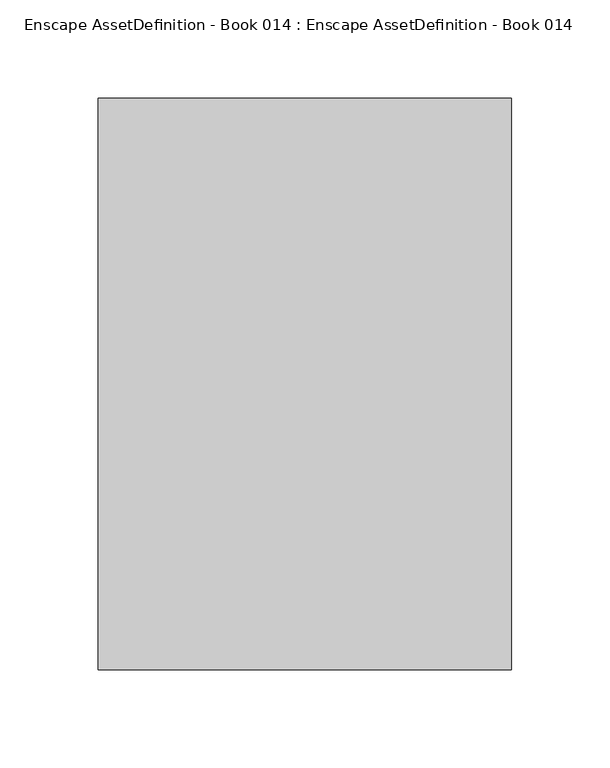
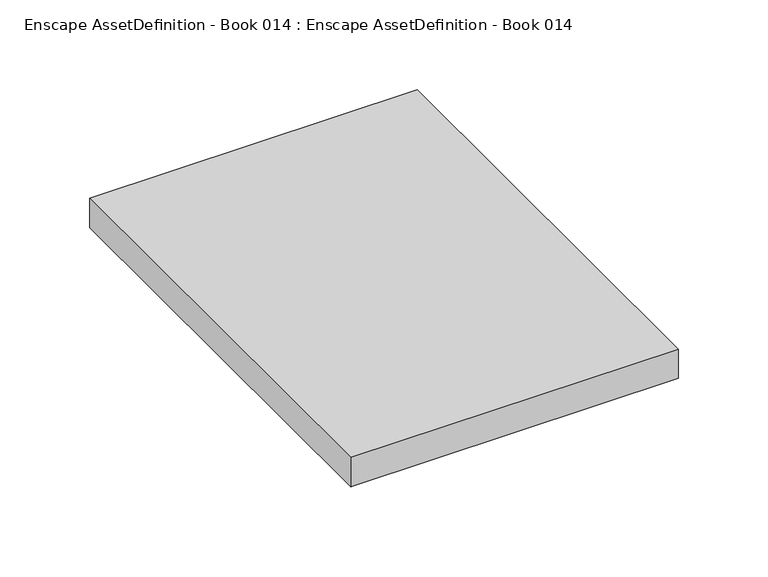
"""IFC4 building model written with IfcOpenShell, lengths in millimetres: geographic element geometry, Enscape AssetDefinition - Book 014 : Enscape AssetDefinition - Book 014."""

import ifcopenshell
import ifcopenshell.guid

model = None  # the IFC model being written
_history = None  # IfcOwnerHistory: only IFC2X3 demands one
_inside = {}  # id of a spatial element -> (the spatial element, [elements in it])
_under = {}  # id of a project, library or spatial element -> (it, [spatial elements below it])
_declared = {}  # id of a project -> (the project, [libraries it declares])
_typed = {}  # id of a type object -> (the type object, [elements of that type])
_made_of = {}  # id of a material, layer set ... -> (it, [elements and type objects made of it])


def new_model(schema):
    """Start an empty IFC model of exactly this schema.

    Asked for "IFC4X3", IfcOpenShell would pick the latest addendum, in which some entities
    have other attributes; the version numbers below select the first issue.
    IFC2X3 requires an IfcOwnerHistory on every rooted entity: one is made here for all.
    """
    global model, _history
    if schema == "IFC4X3":
        model = ifcopenshell.file(schema_version=(4, 3, 0, 0))
    else:
        model = ifcopenshell.file(schema=schema)
    _inside.clear()
    _under.clear()
    _declared.clear()
    _typed.clear()
    _made_of.clear()
    _history = None
    if model.schema == "IFC2X3":
        org = make("IfcOrganization", Name="unknown")
        user = make(
            "IfcPersonAndOrganization",
            ThePerson=make("IfcPerson", FamilyName="unknown"),
            TheOrganization=org,
        )
        app = make(
            "IfcApplication",
            ApplicationDeveloper=org,
            Version="unknown",
            ApplicationFullName="unknown",
            ApplicationIdentifier="unknown",
        )
        _history = make(
            "IfcOwnerHistory",
            OwningUser=user,
            OwningApplication=app,
            ChangeAction="ADDED",
            CreationDate=0,
        )
    return model


def make(cls, **values):
    """One entity of the class cls with the attributes given. An attribute that is None is left unset."""
    return model.create_entity(
        cls, **{name: value for name, value in values.items() if value is not None}
    )


def rooted(cls, **values):
    """An entity with a GlobalId (a new one), such as an element, a storey or a relation."""
    return make(cls, GlobalId=ifcopenshell.guid.new(), OwnerHistory=_history, **values)


def si_unit(unit_type, name, prefix=None):
    """IfcSIUnit, for example si_unit("LENGTHUNIT", "METRE", prefix="MILLI")."""
    return make("IfcSIUnit", UnitType=unit_type, Prefix=prefix, Name=name)


def assignment(units):
    """IfcUnitAssignment: the units of a project."""
    return None if units is None else make("IfcUnitAssignment", Units=units)


def point(xyz):
    """IfcCartesianPoint."""
    return None if xyz is None else make("IfcCartesianPoint", Coordinates=xyz)


def direction(xyz):
    """IfcDirection."""
    return None if xyz is None else make("IfcDirection", DirectionRatios=xyz)


def frame(location, z_axis=None, x_axis=None):
    """IfcAxis2Placement3D, a coordinate frame: its origin and axes. An axis left out is left unset."""
    return make(
        "IfcAxis2Placement3D",
        Location=point(location),
        Axis=direction(z_axis),
        RefDirection=direction(x_axis),
    )


def origin():
    """The frame at (0, 0, 0) with its axes left unset."""
    return frame((0.0, 0.0, 0.0))


def place(relative_to, where):
    """IfcLocalPlacement: puts the frame where relative to a parent placement (None: the world)."""
    return make(
        "IfcLocalPlacement", PlacementRelTo=relative_to, RelativePlacement=where
    )


def context(
    kind, dimensions, precision=None, world=None, true_north=None, identifier=None
):
    """IfcGeometricRepresentationContext, for example the 3D "Model" context."""
    return make(
        "IfcGeometricRepresentationContext",
        ContextIdentifier=identifier,
        ContextType=kind,
        CoordinateSpaceDimension=dimensions,
        Precision=precision,
        WorldCoordinateSystem=world,
        TrueNorth=true_north,
    )


def project(units=None, contexts=None):
    """IfcProject with its units and contexts."""
    return rooted(
        "IfcProject",
        Name="project",
        RepresentationContexts=contexts,
        UnitsInContext=assignment(units),
    )


def spatial(cls, under=None, at=None, **own):
    """A site, building, storey or space (cls), placed at a placement, below another one or the project."""
    s = rooted(cls, ObjectPlacement=at, **own)
    if under is not None:
        _under.setdefault(under.id(), (under, []))[1].append(s)
    return s


def point_list(points):
    """IfcCartesianPointList2D or 3D."""
    cls = (
        "IfcCartesianPointList2D" if len(points[0]) == 2 else "IfcCartesianPointList3D"
    )
    return make(cls, CoordList=points)


def triangles(points, corners, closed=None, point_numbers=None):
    """IfcTriangulatedFaceSet: each triangle names its three corners, points numbered from 1."""
    return make(
        "IfcTriangulatedFaceSet",
        Coordinates=point_list(points),
        Closed=closed,
        CoordIndex=corners,
        PnIndex=point_numbers,
    )


def shape(context_of_items, identifier, shape_type, items):
    """IfcShapeRepresentation: the items that make up one representation, for example the "Body"."""
    return make(
        "IfcShapeRepresentation",
        ContextOfItems=context_of_items,
        RepresentationIdentifier=identifier,
        RepresentationType=shape_type,
        Items=items,
    )


def source(mapping_origin, context_of_items, identifier, shape_type, items):
    """IfcRepresentationMap: a shape defined once, which mapped items show again and again."""
    return make(
        "IfcRepresentationMap",
        MappingOrigin=mapping_origin,
        MappedRepresentation=shape(context_of_items, identifier, shape_type, items),
    )


def transform(
    local_origin,
    x_axis=None,
    y_axis=None,
    z_axis=None,
    scale=None,
    scale2=None,
    scale3=None,
    uniform=True,
):
    """IfcCartesianTransformationOperator3D, or its non-uniform kind. x_axis, y_axis, z_axis: its Axis1, 2, 3."""
    if uniform:
        return make(
            "IfcCartesianTransformationOperator3D",
            Axis1=direction(x_axis),
            Axis2=direction(y_axis),
            LocalOrigin=point(local_origin),
            Scale=scale,
            Axis3=direction(z_axis),
        )
    return make(
        "IfcCartesianTransformationOperator3DnonUniform",
        Axis1=direction(x_axis),
        Axis2=direction(y_axis),
        LocalOrigin=point(local_origin),
        Scale=scale,
        Axis3=direction(z_axis),
        Scale2=scale2,
        Scale3=scale3,
    )


def mapped(mapping_source, mapping_target):
    """IfcMappedItem: shows the shape of a source again, moved by a transform."""
    return make(
        "IfcMappedItem", MappingSource=mapping_source, MappingTarget=mapping_target
    )


def made_of(thing, what):
    """Note that an element or type object is made of a material, layer set ...; save() writes the relation."""
    if what is not None:
        _made_of.setdefault(what.id(), (what, []))[1].append(thing)
    return thing


def element(
    cls,
    number,
    at=None,
    inside=None,
    cuts=None,
    type_object=None,
    material=None,
    context=None,
    identifier="Body",
    shape_type=None,
    held_by="IfcProductDefinitionShape",
    body=None,
    shapes=None,
    **own,
):
    """One element of the class cls, such as IfcWall. Its Tag is "e" and its number.

    at: its placement. inside: the storey or other place that contains it. cuts: it is an
    opening in that element (IfcRelVoidsElement). A single representation is given by context,
    identifier, shape_type and body (its items); several are given by shapes. held_by: the class
    of the entity that holds the representations. save() writes the other relations.
    """
    e = rooted(cls, Tag="e%d" % number, ObjectPlacement=at, **own)
    if body is not None:
        shapes = [shape(context, identifier, shape_type, body)]
    if shapes is not None:
        e.Representation = make(held_by, Representations=shapes)
    if inside is not None:
        _inside.setdefault(inside.id(), (inside, []))[1].append(e)
    if cuts is not None:
        rooted(
            "IfcRelVoidsElement", RelatingBuildingElement=cuts, RelatedOpeningElement=e
        )
    if type_object is not None:
        _typed.setdefault(type_object.id(), (type_object, []))[1].append(e)
    return made_of(e, material)


def aggregate(whole, parts):
    """IfcRelAggregates: a whole, such as a stair, and the parts it consists of."""
    return rooted("IfcRelAggregates", RelatingObject=whole, RelatedObjects=parts)


def save(model, path):
    """Write the relations noted so far, then the file.

    IfcRelAggregates (storeys below a building ...), IfcRelContainedInSpatialStructure (elements
    in a storey), IfcRelDefinesByType, IfcRelAssociatesMaterial and IfcRelDeclares: one each for
    every whole, place, type object, material and project.
    """
    for whole, parts in _under.values():
        aggregate(whole, parts)
    for where, things in _inside.values():
        rooted(
            "IfcRelContainedInSpatialStructure",
            RelatedElements=things,
            RelatingStructure=where,
        )
    for kind, things in _typed.values():
        rooted("IfcRelDefinesByType", RelatedObjects=things, RelatingType=kind)
    for what, things in _made_of.values():
        rooted("IfcRelAssociatesMaterial", RelatedObjects=things, RelatingMaterial=what)
    for by, libraries in _declared.values():
        rooted("IfcRelDeclares", RelatingContext=by, RelatedDefinitions=libraries)
    model.write(path)


def enscape_assetdefinition_book_014_enscape_assetdefinition_2a6dd25d(model_context):
    return source(origin(), model_context, "Body", "Tessellation", [
        triangles([(104.9999954, -144.9999975, 0.0), (104.9999954, 144.9999975, 19.9110008), (-104.9999954, -144.9999975, 0.0), (104.9999954, -144.9999975, 19.9110008), (104.9999954, 144.9999975, 0.0), (-104.9999954, 144.9999975, 19.9110008), (-104.9999954, 144.9999975, 0.0), (-104.9999954, -144.9999975, 19.9110008)], [[7, 3, 8], [5, 7, 6], [1, 5, 2], [3, 1, 4], [8, 4, 2], [3, 7, 5], [7, 8, 6], [5, 6, 2], [1, 2, 4], [3, 4, 8], [8, 2, 6], [3, 5, 1]]),
    ])


if __name__ == "__main__":
    model = new_model("IFC4")
    model_context = context("Model", 3, world=origin())
    ifc_project = project(units=[si_unit("LENGTHUNIT", "METRE", prefix="MILLI")], contexts=[model_context])
    site = spatial("IfcSite", under=ifc_project)
    building = spatial("IfcBuilding", under=site)
    placement = place(None, origin())
    enscape_assetdefinition_book_014_enscape_assetdefinition_shape = enscape_assetdefinition_book_014_enscape_assetdefinition_2a6dd25d(model_context)
    element("IfcGeographicElement", 1, ObjectType="Enscape AssetDefinition - Book 014 : Enscape AssetDefinition - Book 014", at=placement, inside=building, context=model_context, shape_type="MappedRepresentation", body=[
        mapped(enscape_assetdefinition_book_014_enscape_assetdefinition_shape, transform((0.0, 0.0, 0.0), x_axis=(1.0, 0.0, 0.0), y_axis=(0.0, 1.0, 0.0), z_axis=(0.0, 0.0, 1.0))),
    ])
    save(model, "model.ifc")
